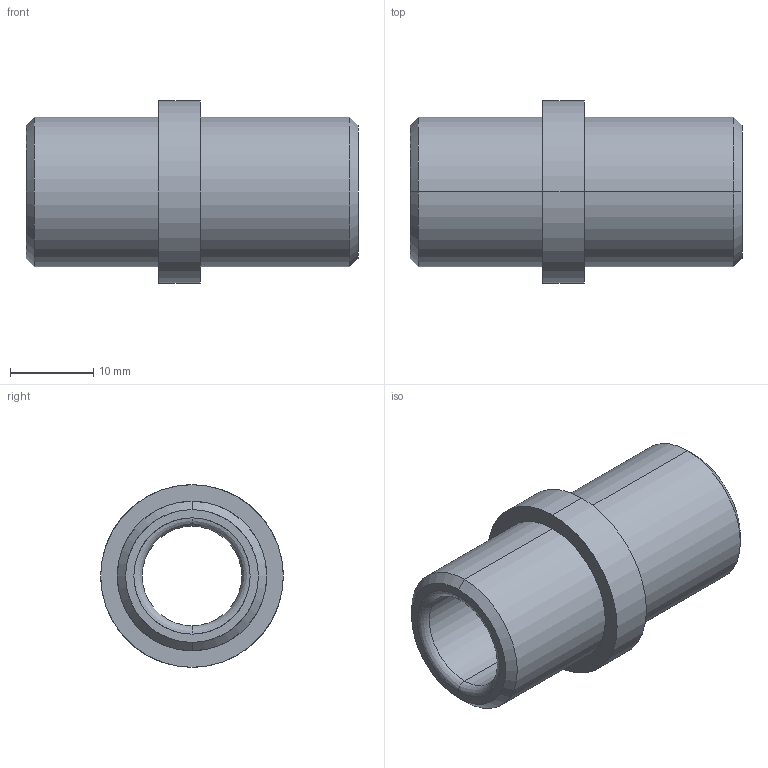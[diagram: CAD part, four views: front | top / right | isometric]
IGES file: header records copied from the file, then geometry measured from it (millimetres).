
Start section: START RECORD GO HERE.
Global section: file name: 355-12X40.igs; native system: DASSAULT SYSTEMES CATIA V5 R20 - www.3ds.com; preprocessor: CATIA Version 5 Release 20 ; author: Utente; organization: NB04-ASUS; date: 20210421.105858; units: millimetre
Bounding box: 40 x 22 x 22 mm (x, y, z)
Surface area: 4266.5 mm2 (no closed solid volume)
Topology: 0 solids, 0 shells, 20 faces, 128 edges, 128 vertices
Faces by surface type: revolution 16, plane 4
